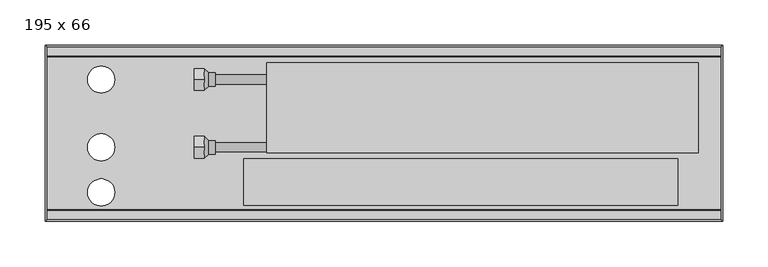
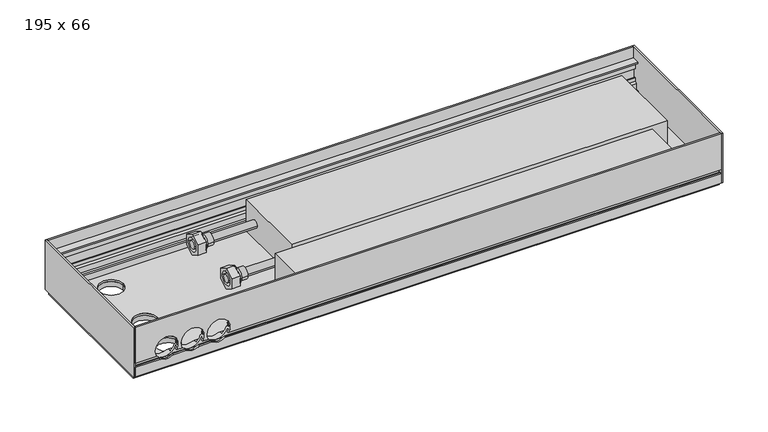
"""IFC4 building model written with IfcOpenShell, lengths in millimetres: proxy geometry, Mohlenhof_Внутрипольный конвектор_QSKM : 195 x 66."""

from ifc_helpers import new_model, si_unit, point, frame, frame_2d, origin, place, context, project, spatial, polyline, circle_curve, ellipse_curve, trimmed, segment, composite_curve, outline, extrude, source, transform, mapped, element, save
from ifc_brep_helpers import plane_surface, cylinder_surface, revolved_surface, advanced_brep


def proxy_195_x_66_cb3d574a(model_context):
    return source(origin(), model_context, "Body", "SolidModel", [
        advanced_brep(
        [(-199.0, -213.0, -41.0), (-199.0, -201.0, -41.0), (-199.0, -225.0, -41.0), (-186.5, -220.5, -41.0), (-186.5, -205.5, -41.0), (-186.5, -213.0, -41.0), (-194.0, -220.5, -41.0), (-194.0, -205.5, -41.0)],
        [
            (0, 1),
            (1, 2, circle_curve(frame((-199.0, -213.0, -41.0), z_axis=(-1.0, 0.0, 0.0), x_axis=(0.0, 1.0, 0.0)), 12.0)),
            (2, 0),
            (2, 1, circle_curve(frame((-199.0, -213.0, -41.0), z_axis=(-1.0, 0.0, 0.0), x_axis=(0.0, 1.0, 0.0)), 12.0)),
            (3, 4, circle_curve(frame((-186.5, -213.0, -41.0), z_axis=(1.0, 0.0, 0.0), x_axis=(0.0, 1.0, 0.0)), 7.5)),
            (4, 5),
            (5, 3),
            (4, 3, circle_curve(frame((-186.5, -213.0, -41.0), z_axis=(1.0, 0.0, 0.0), x_axis=(0.0, 1.0, 0.0)), 7.5)),
            (6, 7, circle_curve(frame((-194.0, -213.0, -41.0), z_axis=(1.0, 0.0, 0.0), x_axis=(0.0, 1.0, 0.0)), 7.5)),
            (7, 4),
            (3, 6),
            (7, 6, circle_curve(frame((-194.0, -213.0, -41.0), z_axis=(1.0, 0.0, 0.0), x_axis=(0.0, 1.0, 0.0)), 7.5)),
            (1, 7),
            (6, 2),
        ],
        [
            plane_surface(frame((-199.0, -213.0, -41.0), z_axis=(-1.0, 0.0, 0.0), x_axis=(0.0, 1.0, 0.0))),
            plane_surface(frame((-186.5, -213.0, -41.0), z_axis=(1.0, 0.0, 0.0), x_axis=(0.0, 1.0, 0.0))),
            cylinder_surface(frame((-199.0, -213.0, -41.0), z_axis=(-1.0, 0.0, 0.0), x_axis=(0.0, 1.0, 0.0)), 7.5),
            revolved_surface(polyline([(-194.0, -205.5, -41.0), (-199.0, -201.0, -41.0)]), (-199.0, -213.0, -41.0), (-1.0, 0.0, 0.0)),
        ],
        [
            (0, [[1, 2, 3]]),
            (0, [[-3, 4, -1]]),
            (1, [[5, 6, 7]]),
            (1, [[8, -7, -6]]),
            (2, [[9, 10, -5, 11]]),
            (2, [[12, -11, -8, -10]]),
            (3, [[-2, 13, -9, 14]]),
            (3, [[-4, -14, -12, -13]]),
        ],
    ),
        extrude(outline(polyline([(-213.0, -27.1435935), (-201.0, -34.0717968), (-201.0, -47.9282032), (-213.0, -54.8564065), (-225.0, -47.9282032), (-225.0, -34.0717968), (-213.0, -27.1435935)]), holes=[composite_curve([segment(trimmed(circle_curve(frame_2d((-213.0, -41.0)), 8.5), [point((-204.5, -41.0))], [point((-221.5, -41.0))], True, "CARTESIAN"), True, "CONTINUOUS"), segment(trimmed(circle_curve(frame_2d((-213.0, -41.0)), 8.5), [point((-221.5, -41.0))], [point((-204.5, -41.0))], True, "CARTESIAN"), True, "CONTINUOUS")], self_intersect=False)]), frame((-210.0, 0.0, 0.0), z_axis=(1.0, 0.0, 0.0), x_axis=(0.0, 1.0, 0.0)), (0.0, 0.0, 1.0), 11.0),
        advanced_brep(
        [(-199.0, -138.0, -41.0), (-199.0, -126.0, -41.0), (-199.0, -150.0, -41.0), (-186.5, -145.5, -41.0), (-186.5, -130.5, -41.0), (-186.5, -138.0, -41.0), (-194.0, -145.5, -41.0), (-194.0, -130.5, -41.0)],
        [
            (0, 1),
            (1, 2, circle_curve(frame((-199.0, -138.0, -41.0), z_axis=(-1.0, 0.0, 0.0), x_axis=(0.0, 1.0, 0.0)), 12.0)),
            (2, 0),
            (2, 1, circle_curve(frame((-199.0, -138.0, -41.0), z_axis=(-1.0, 0.0, 0.0), x_axis=(0.0, 1.0, 0.0)), 12.0)),
            (3, 4, circle_curve(frame((-186.5, -138.0, -41.0), z_axis=(1.0, 0.0, 0.0), x_axis=(0.0, 1.0, 0.0)), 7.5)),
            (4, 5),
            (5, 3),
            (4, 3, circle_curve(frame((-186.5, -138.0, -41.0), z_axis=(1.0, 0.0, 0.0), x_axis=(0.0, 1.0, 0.0)), 7.5)),
            (6, 7, circle_curve(frame((-194.0, -138.0, -41.0), z_axis=(1.0, 0.0, 0.0), x_axis=(0.0, 1.0, 0.0)), 7.5)),
            (7, 4),
            (3, 6),
            (7, 6, circle_curve(frame((-194.0, -138.0, -41.0), z_axis=(1.0, 0.0, 0.0), x_axis=(0.0, 1.0, 0.0)), 7.5)),
            (1, 7),
            (6, 2),
        ],
        [
            plane_surface(frame((-199.0, -138.0, -41.0), z_axis=(-1.0, 0.0, 0.0), x_axis=(0.0, 1.0, 0.0))),
            plane_surface(frame((-186.5, -138.0, -41.0), z_axis=(1.0, 0.0, 0.0), x_axis=(0.0, 1.0, 0.0))),
            cylinder_surface(frame((-199.0, -138.0, -41.0), z_axis=(-1.0, 0.0, 0.0), x_axis=(0.0, 1.0, 0.0)), 7.5),
            revolved_surface(polyline([(-194.0, -130.5, -41.0), (-199.0, -126.0, -41.0)]), (-199.0, -138.0, -41.0), (-1.0, 0.0, 0.0)),
        ],
        [
            (0, [[1, 2, 3]]),
            (0, [[-3, 4, -1]]),
            (1, [[5, 6, 7]]),
            (1, [[8, -7, -6]]),
            (2, [[9, 10, -5, 11]]),
            (2, [[12, -11, -8, -10]]),
            (3, [[-2, 13, -9, 14]]),
            (3, [[-4, -14, -12, -13]]),
        ],
    ),
        extrude(outline(polyline([(-138.0, -27.1435935), (-126.0, -34.0717968), (-126.0, -47.9282032), (-138.0, -54.8564065), (-150.0, -47.9282032), (-150.0, -34.0717968), (-138.0, -27.1435935)]), holes=[composite_curve([segment(trimmed(circle_curve(frame_2d((-138.0, -41.0)), 8.5), [point((-129.5, -41.0))], [point((-146.5, -41.0))], True, "CARTESIAN"), True, "CONTINUOUS"), segment(trimmed(circle_curve(frame_2d((-138.0, -41.0)), 8.5), [point((-146.5, -41.0))], [point((-129.5, -41.0))], True, "CARTESIAN"), True, "CONTINUOUS")], self_intersect=False)]), frame((-210.0, 0.0, 0.0), z_axis=(1.0, 0.0, 0.0), x_axis=(0.0, 1.0, 0.0)), (0.0, 0.0, 1.0), 11.0),
        extrude(outline(composite_curve([segment(trimmed(circle_curve(frame_2d((-350.0, -273.5)), 4.5), [point((-354.5, -273.5))], [point((-345.5, -273.5))], False, "CARTESIAN"), True, "CONTINUOUS"), segment(trimmed(circle_curve(frame_2d((-350.0, -273.5)), 4.5), [point((-345.5, -273.5))], [point((-354.5, -273.5))], False, "CARTESIAN"), True, "CONTINUOUS")], self_intersect=False)), frame((0.0, 0.0, -79.0), z_axis=(0.0, 0.0, 1.0), x_axis=(1.0, 0.0, 0.0)), (0.0, 0.0, 1.0), 7.0),
        extrude(outline(composite_curve([segment(trimmed(circle_curve(frame_2d((-350.0, -273.5)), 4.0), [point((-354.0, -273.5))], [point((-346.0, -273.5))], False, "CARTESIAN"), True, "CONTINUOUS"), segment(trimmed(circle_curve(frame_2d((-350.0, -273.5)), 4.0), [point((-346.0, -273.5))], [point((-354.0, -273.5))], False, "CARTESIAN"), True, "CONTINUOUS")], self_intersect=False)), frame((0.0, 0.0, -72.0), z_axis=(0.0, 0.0, 1.0), x_axis=(1.0, 0.0, 0.0)), (0.0, 0.0, 1.0), 1.5),
        extrude(outline(composite_curve([segment(trimmed(circle_curve(frame_2d((-350.0, -121.5)), 4.5), [point((-354.5, -121.5))], [point((-345.5, -121.5))], False, "CARTESIAN"), True, "CONTINUOUS"), segment(trimmed(circle_curve(frame_2d((-350.0, -121.5)), 4.5), [point((-345.5, -121.5))], [point((-354.5, -121.5))], False, "CARTESIAN"), True, "CONTINUOUS")], self_intersect=False)), frame((0.0, 0.0, -79.0), z_axis=(0.0, 0.0, 1.0), x_axis=(1.0, 0.0, 0.0)), (0.0, 0.0, 1.0), 7.0),
        extrude(outline(composite_curve([segment(trimmed(circle_curve(frame_2d((-350.0, -121.5)), 4.0), [point((-354.0, -121.5))], [point((-346.0, -121.5))], False, "CARTESIAN"), True, "CONTINUOUS"), segment(trimmed(circle_curve(frame_2d((-350.0, -121.5)), 4.0), [point((-346.0, -121.5))], [point((-354.0, -121.5))], False, "CARTESIAN"), True, "CONTINUOUS")], self_intersect=False)), frame((0.0, 0.0, -72.0), z_axis=(0.0, 0.0, 1.0), x_axis=(1.0, 0.0, 0.0)), (0.0, 0.0, 1.0), 1.5),
        extrude(outline(composite_curve([segment(trimmed(circle_curve(frame_2d((350.0, -273.5)), 4.5), [point((345.5, -273.5))], [point((354.5, -273.5))], False, "CARTESIAN"), True, "CONTINUOUS"), segment(trimmed(circle_curve(frame_2d((350.0, -273.5)), 4.5), [point((354.5, -273.5))], [point((345.5, -273.5))], False, "CARTESIAN"), True, "CONTINUOUS")], self_intersect=False)), frame((0.0, 0.0, -79.0), z_axis=(0.0, 0.0, 1.0), x_axis=(1.0, 0.0, 0.0)), (0.0, 0.0, 1.0), 7.0),
        extrude(outline(composite_curve([segment(trimmed(circle_curve(frame_2d((350.0, -273.5)), 4.0), [point((346.0, -273.5))], [point((354.0, -273.5))], False, "CARTESIAN"), True, "CONTINUOUS"), segment(trimmed(circle_curve(frame_2d((350.0, -273.5)), 4.0), [point((354.0, -273.5))], [point((346.0, -273.5))], False, "CARTESIAN"), True, "CONTINUOUS")], self_intersect=False)), frame((0.0, 0.0, -72.0), z_axis=(0.0, 0.0, 1.0), x_axis=(1.0, 0.0, 0.0)), (0.0, 0.0, 1.0), 1.5),
        extrude(outline(composite_curve([segment(trimmed(circle_curve(frame_2d((350.0, -121.5)), 4.5), [point((345.5, -121.5))], [point((354.5, -121.5))], False, "CARTESIAN"), True, "CONTINUOUS"), segment(trimmed(circle_curve(frame_2d((350.0, -121.5)), 4.5), [point((354.5, -121.5))], [point((345.5, -121.5))], False, "CARTESIAN"), True, "CONTINUOUS")], self_intersect=False)), frame((0.0, 0.0, -79.0), z_axis=(0.0, 0.0, 1.0), x_axis=(1.0, 0.0, 0.0)), (0.0, 0.0, 1.0), 7.0),
        extrude(outline(composite_curve([segment(trimmed(circle_curve(frame_2d((350.0, -121.5)), 4.0), [point((346.0, -121.5))], [point((354.0, -121.5))], False, "CARTESIAN"), True, "CONTINUOUS"), segment(trimmed(circle_curve(frame_2d((350.0, -121.5)), 4.0), [point((354.0, -121.5))], [point((346.0, -121.5))], False, "CARTESIAN"), True, "CONTINUOUS")], self_intersect=False)), frame((0.0, 0.0, -72.0), z_axis=(0.0, 0.0, 1.0), x_axis=(1.0, 0.0, 0.0)), (0.0, 0.0, 1.0), 1.5),
        extrude(outline(polyline([(325.0, -225.87), (325.0, -277.18), (-155.0, -277.18), (-155.0, -225.87), (325.0, -225.87)])), frame((0.0, 0.0, -62.5), z_axis=(0.0, 0.0, 1.0), x_axis=(1.0, 0.0, 0.0)), (0.0, 0.0, 1.0), 43.62),
        extrude(outline(composite_curve([segment(trimmed(circle_curve(frame_2d((-213.0, -41.0)), 5.0), [point((-218.0, -41.0))], [point((-208.0, -41.0))], False, "CARTESIAN"), True, "CONTINUOUS"), segment(trimmed(circle_curve(frame_2d((-213.0, -41.0)), 5.0), [point((-208.0, -41.0))], [point((-218.0, -41.0))], False, "CARTESIAN"), True, "CONTINUOUS")], self_intersect=False)), frame((-210.0, 0.0, 0.0), z_axis=(1.0, 0.0, 0.0), x_axis=(0.0, 1.0, 0.0)), (0.0, 0.0, 1.0), 80.0),
        extrude(outline(composite_curve([segment(trimmed(circle_curve(frame_2d((-138.0, -41.0)), 5.0), [point((-143.0, -41.0))], [point((-133.0, -41.0))], False, "CARTESIAN"), True, "CONTINUOUS"), segment(trimmed(circle_curve(frame_2d((-138.0, -41.0)), 5.0), [point((-133.0, -41.0))], [point((-143.0, -41.0))], False, "CARTESIAN"), True, "CONTINUOUS")], self_intersect=False)), frame((-210.0, 0.0, 0.0), z_axis=(1.0, 0.0, 0.0), x_axis=(0.0, 1.0, 0.0)), (0.0, 0.0, 1.0), 80.0),
        advanced_brep(
        [(373.0, -295.0, -48.5473602), (373.0, -293.5, -49.2468216), (373.0, -292.5, -49.2468216), (373.0, -292.5, -46.0008038), (373.0, -290.0, -46.0008038), (373.0, -290.0, -56.5008038), (373.0, -292.5, -56.5008038), (373.0, -292.5, -53.2468216), (373.0, -293.5, -53.2468216), (373.0, -295.0, -53.9462831), (373.0, -295.0, -66.5), (373.0, -291.0, -66.5), (373.0, -291.0, -65.2), (373.0, -293.0, -65.2), (373.0, -293.0, -62.5), (373.0, -282.0, -62.5), (373.0, -282.0, -54.9172677), (373.0, -283.4172677, -53.5), (373.0, -287.0, -53.5), (373.0, -287.0, -45.91), (373.0, -289.0, -43.91), (373.0, -289.0, -39.5), (373.0, -290.0, -39.5), (373.0, -290.0, -43.5), (373.0, -292.4956439, -43.5), (373.0, -292.4956439, -23.0), (373.0, -290.0, -23.0), (373.0, -290.0, -27.0), (373.0, -289.0, -27.0), (373.0, -289.0, -17.0), (373.0, -283.3956439, -17.0), (373.0, -283.3956439, -15.0), (373.0, -293.4, -15.0), (373.0, -293.4, 0.0), (373.0, -295.0, 0.0), (-373.0, -295.0, -48.5473602), (-373.0, -295.0, 0.0), (-373.0, -293.4, 0.0), (-373.0, -293.4, -15.0), (-373.0, -283.3956439, -15.0), (-373.0, -283.3956439, -17.0), (-373.0, -289.0, -17.0), (-373.0, -289.0, -27.0), (-373.0, -290.0, -27.0), (-373.0, -290.0, -23.0), (-373.0, -292.4956439, -23.0), (-373.0, -292.4956439, -43.5), (-373.0, -290.0, -43.5), (-373.0, -290.0, -39.5), (-373.0, -289.0, -39.5), (-373.0, -289.0, -43.91), (-373.0, -287.0, -45.91), (-373.0, -287.0, -53.5), (-373.0, -283.4172677, -53.5), (-373.0, -282.0, -54.9172677), (-373.0, -282.0, -62.5), (-373.0, -293.0, -62.5), (-373.0, -293.0, -65.2), (-373.0, -291.0, -65.2), (-373.0, -291.0, -66.5), (-373.0, -295.0, -66.5), (-373.0, -295.0, -53.9462831), (-373.0, -293.5, -53.2468216), (-373.0, -292.5, -53.2468216), (-373.0, -292.5, -56.5008038), (-373.0, -290.0, -56.5008038), (-373.0, -290.0, -46.0008038), (-373.0, -292.5, -46.0008038), (-373.0, -292.5, -49.2468216), (-373.0, -293.5, -49.2468216), (-253.7585985, -295.0, -48.5473602), (-254.155283, -293.5, -49.2468216), (-345.844717, -293.5, -49.2468216), (-346.2414015, -295.0, -48.5473602), (-313.2414015, -295.0, -48.5473602), (-319.7585985, -295.0, -48.5473602), (-320.155283, -293.5, -49.2468216), (-312.844717, -293.5, -49.2468216), (-280.2414015, -295.0, -48.5473602), (-286.7585985, -295.0, -48.5473602), (-287.155283, -293.5, -49.2468216), (-279.844717, -293.5, -49.2468216), (-254.155283, -292.5, -49.2468216), (-345.844717, -292.5, -49.2468216), (-320.155283, -292.5, -49.2468216), (-312.844717, -292.5, -49.2468216), (-287.155283, -292.5, -49.2468216), (-279.844717, -292.5, -49.2468216), (-252.6911648, -292.5, -46.0008038), (-347.3088352, -292.5, -46.0008038), (-318.6911648, -292.5, -46.0008038), (-314.3088352, -292.5, -46.0008038), (-285.6911648, -292.5, -46.0008038), (-281.3088352, -292.5, -46.0008038), (-252.6911648, -290.0, -46.0008038), (-347.3088352, -290.0, -46.0008038), (-318.6911648, -290.0, -46.0008038), (-314.3088352, -290.0, -46.0008038), (-285.6911648, -290.0, -46.0008038), (-281.3088352, -290.0, -46.0008038), (-342.328032, -292.5, -53.2468216), (-323.671968, -292.5, -53.2468216), (-309.328032, -292.5, -53.2468216), (-290.671968, -292.5, -53.2468216), (-276.328032, -292.5, -53.2468216), (-257.671968, -292.5, -53.2468216), (-257.671968, -293.5, -53.2468216), (-342.328032, -293.5, -53.2468216), (-323.671968, -293.5, -53.2468216), (-309.328032, -293.5, -53.2468216), (-290.671968, -293.5, -53.2468216), (-276.328032, -293.5, -53.2468216), (-258.6280208, -295.0, -53.9462831), (-341.3719792, -295.0, -53.9462831), (-324.6280208, -295.0, -53.9462831), (-308.3719792, -295.0, -53.9462831), (-291.6280208, -295.0, -53.9462831), (-275.3719792, -295.0, -53.9462831), (-339.7064841, -282.0, -54.9172677), (-326.2935159, -282.0, -54.9172677), (-306.7064841, -282.0, -54.9172677), (-293.2935159, -282.0, -54.9172677), (-273.7064841, -282.0, -54.9172677), (-260.2935159, -282.0, -54.9172677), (-258.0, -283.4172677, -53.5), (-342.0, -283.4172677, -53.5), (-324.0, -283.4172677, -53.5), (-309.0, -283.4172677, -53.5), (-291.0, -283.4172677, -53.5), (-276.0, -283.4172677, -53.5), (-258.0, -287.0, -53.5), (-342.0, -287.0, -53.5), (-324.0, -287.0, -53.5), (-309.0, -287.0, -53.5), (-291.0, -287.0, -53.5), (-276.0, -287.0, -53.5), (-252.6629187, -287.0, -45.91), (-347.3370813, -287.0, -45.91), (-318.6629187, -287.0, -45.91), (-314.3370813, -287.0, -45.91), (-285.6629187, -287.0, -45.91), (-281.3370813, -287.0, -45.91), (-252.1948691, -289.0, -43.91), (-347.8051309, -289.0, -43.91), (-318.1948691, -289.0, -43.91), (-314.8051309, -289.0, -43.91), (-285.1948691, -289.0, -43.91), (-281.8051309, -289.0, -43.91), (-252.0, -289.0, -41.5), (-252.1339313, -289.0, -39.5), (-347.8660687, -289.0, -39.5), (-348.0, -289.0, -41.5), (-318.0, -289.0, -41.5), (-318.1339313, -289.0, -39.5), (-314.8660687, -289.0, -39.5), (-315.0, -289.0, -41.5), (-285.0, -289.0, -41.5), (-285.1339313, -289.0, -39.5), (-281.8660687, -289.0, -39.5), (-282.0, -289.0, -41.5), (-252.1339313, -290.0, -39.5), (-347.8660687, -290.0, -39.5), (-318.1339313, -290.0, -39.5), (-314.8660687, -290.0, -39.5), (-285.1339313, -290.0, -39.5), (-281.8660687, -290.0, -39.5), (-252.0, -290.0, -41.5), (-252.1339313, -290.0, -43.5), (-347.8660687, -290.0, -43.5), (-348.0, -290.0, -41.5), (-318.0, -290.0, -41.5), (-318.1339313, -290.0, -43.5), (-314.8660687, -290.0, -43.5), (-315.0, -290.0, -41.5), (-285.0, -290.0, -41.5), (-285.1339313, -290.0, -43.5), (-281.8660687, -290.0, -43.5), (-282.0, -290.0, -41.5), (-252.1339313, -292.4956439, -43.5), (-347.8660687, -292.4956439, -43.5), (-318.1339313, -292.4956439, -43.5), (-314.8660687, -292.4956439, -43.5), (-285.1339313, -292.4956439, -43.5), (-281.8660687, -292.4956439, -43.5), (-252.0, -292.4956439, -41.5), (-282.0, -292.4956439, -41.5), (-285.0, -292.4956439, -41.5), (-315.0, -292.4956439, -41.5), (-318.0, -292.4956439, -41.5), (-348.0, -292.4956439, -41.5), (-336.8405729, -290.0, -27.0), (-329.1594271, -290.0, -27.0), (-303.8405729, -290.0, -27.0), (-296.1594271, -290.0, -27.0), (-270.8405729, -290.0, -27.0), (-263.1594271, -290.0, -27.0), (-263.1594271, -289.0, -27.0), (-336.8405729, -289.0, -27.0), (-329.1594271, -289.0, -27.0), (-303.8405729, -289.0, -27.0), (-296.1594271, -289.0, -27.0), (-270.8405729, -289.0, -27.0), (-348.0, -295.0, -41.5), (-318.0, -295.0, -41.5), (-315.0, -295.0, -41.5), (-285.0, -295.0, -41.5), (-282.0, -295.0, -41.5), (-252.0, -295.0, -41.5)],
        [
            (0, 1),
            (1, 2),
            (2, 3),
            (3, 4),
            (4, 5),
            (5, 6),
            (6, 7),
            (7, 8),
            (8, 9),
            (9, 10),
            (10, 11),
            (11, 12),
            (12, 13),
            (13, 14),
            (14, 15),
            (15, 16),
            (16, 17),
            (17, 18),
            (18, 19),
            (19, 20),
            (20, 21),
            (21, 22),
            (22, 23),
            (23, 24),
            (24, 25),
            (25, 26),
            (26, 27),
            (27, 28),
            (28, 29),
            (29, 30),
            (30, 31),
            (31, 32),
            (32, 33),
            (33, 34),
            (34, 0),
            (35, 36),
            (36, 37),
            (37, 38),
            (38, 39),
            (39, 40),
            (40, 41),
            (41, 42),
            (42, 43),
            (43, 44),
            (44, 45),
            (45, 46),
            (46, 47),
            (47, 48),
            (48, 49),
            (49, 50),
            (50, 51),
            (51, 52),
            (52, 53),
            (53, 54),
            (54, 55),
            (55, 56),
            (56, 57),
            (57, 58),
            (58, 59),
            (59, 60),
            (60, 61),
            (61, 62),
            (62, 63),
            (63, 64),
            (64, 65),
            (65, 66),
            (66, 67),
            (67, 68),
            (68, 69),
            (69, 35),
            (0, 70),
            (70, 71, ellipse_curve(frame((-267.0, -310.1131126, -41.5), z_axis=(0.0, 0.42261826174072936, 0.9063077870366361), x_axis=(0.0, -0.906307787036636, 0.4226182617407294)), 35.4930237, 15.0)),
            (71, 1),
            (69, 72),
            (72, 73, ellipse_curve(frame((-333.0, -310.1131126, -41.5), z_axis=(0.0, 0.42261826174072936, 0.9063077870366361), x_axis=(0.0, -0.906307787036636, 0.4226182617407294)), 35.4930237, 15.0)),
            (73, 35),
            (74, 75),
            (75, 76, ellipse_curve(frame((-333.0, -310.1131126, -41.5), z_axis=(0.0, 0.42261826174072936, 0.9063077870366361), x_axis=(0.0, -0.906307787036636, 0.4226182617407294)), 35.4930237, 15.0)),
            (76, 77),
            (77, 74, ellipse_curve(frame((-300.0, -310.1131126, -41.5), z_axis=(0.0, 0.42261826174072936, 0.9063077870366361), x_axis=(0.0, -0.906307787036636, 0.4226182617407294)), 35.4930237, 15.0)),
            (78, 79),
            (79, 80, ellipse_curve(frame((-300.0, -310.1131126, -41.5), z_axis=(0.0, 0.42261826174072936, 0.9063077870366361), x_axis=(0.0, -0.906307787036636, 0.4226182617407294)), 35.4930237, 15.0)),
            (80, 81),
            (81, 78, ellipse_curve(frame((-267.0, -310.1131126, -41.5), z_axis=(0.0, 0.42261826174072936, 0.9063077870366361), x_axis=(0.0, -0.906307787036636, 0.4226182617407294)), 35.4930237, 15.0)),
            (71, 82),
            (82, 2),
            (68, 83),
            (83, 72),
            (76, 84),
            (84, 85),
            (85, 77),
            (80, 86),
            (86, 87),
            (87, 81),
            (82, 88, circle_curve(frame((-267.0, -292.5, -41.5), z_axis=(0.0, -1.0, 0.0), x_axis=(1.0, 0.0, 0.0)), 15.0)),
            (88, 3),
            (67, 89),
            (89, 83, circle_curve(frame((-333.0, -292.5, -41.5), z_axis=(0.0, -1.0, 0.0), x_axis=(1.0, 0.0, 0.0)), 15.0)),
            (84, 90, circle_curve(frame((-333.0, -292.5, -41.5), z_axis=(0.0, -1.0, 0.0), x_axis=(1.0, 0.0, 0.0)), 15.0)),
            (90, 91),
            (91, 85, circle_curve(frame((-300.0, -292.5, -41.5), z_axis=(0.0, -1.0, 0.0), x_axis=(1.0, 0.0, 0.0)), 15.0)),
            (86, 92, circle_curve(frame((-300.0, -292.5, -41.5), z_axis=(0.0, -1.0, 0.0), x_axis=(1.0, 0.0, 0.0)), 15.0)),
            (92, 93),
            (93, 87, circle_curve(frame((-267.0, -292.5, -41.5), z_axis=(0.0, -1.0, 0.0), x_axis=(1.0, 0.0, 0.0)), 15.0)),
            (88, 94),
            (94, 4),
            (66, 95),
            (95, 89),
            (90, 96),
            (96, 97),
            (97, 91),
            (92, 98),
            (98, 99),
            (99, 93),
            (94, 99, circle_curve(frame((-267.0, -290.0, -41.5), z_axis=(0.0, 1.0, 0.0), x_axis=(1.0, 0.0, 0.0)), 15.0)),
            (98, 97, circle_curve(frame((-300.0, -290.0, -41.5), z_axis=(0.0, 1.0, 0.0), x_axis=(1.0, 0.0, 0.0)), 15.0)),
            (96, 95, circle_curve(frame((-333.0, -290.0, -41.5), z_axis=(0.0, 1.0, 0.0), x_axis=(1.0, 0.0, 0.0)), 15.0)),
            (65, 5),
            (64, 6),
            (63, 100),
            (100, 101, circle_curve(frame((-333.0, -292.5, -41.5), z_axis=(0.0, -1.0, 0.0), x_axis=(1.0, 0.0, 0.0)), 15.0)),
            (101, 102),
            (102, 103, circle_curve(frame((-300.0, -292.5, -41.5), z_axis=(0.0, -1.0, 0.0), x_axis=(1.0, 0.0, 0.0)), 15.0)),
            (103, 104),
            (104, 105, circle_curve(frame((-267.0, -292.5, -41.5), z_axis=(0.0, -1.0, 0.0), x_axis=(1.0, 0.0, 0.0)), 15.0)),
            (105, 7),
            (105, 106),
            (106, 8),
            (62, 107),
            (107, 100),
            (101, 108),
            (108, 109),
            (109, 102),
            (103, 110),
            (110, 111),
            (111, 104),
            (106, 112, ellipse_curve(frame((-267.0, -268.3088597, -41.5), z_axis=(0.0, 0.4226182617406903, -0.9063077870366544), x_axis=(0.0, -0.9063077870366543, -0.42261826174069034)), 35.4930237, 15.0)),
            (112, 9),
            (61, 113),
            (113, 107, ellipse_curve(frame((-333.0, -268.3088597, -41.5), z_axis=(0.0, 0.4226182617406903, -0.9063077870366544), x_axis=(0.0, -0.9063077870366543, -0.42261826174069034)), 35.4930237, 15.0)),
            (108, 114, ellipse_curve(frame((-333.0, -268.3088597, -41.5), z_axis=(0.0, 0.4226182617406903, -0.9063077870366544), x_axis=(0.0, -0.9063077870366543, -0.42261826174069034)), 35.4930237, 15.0)),
            (114, 115),
            (115, 109, ellipse_curve(frame((-300.0, -268.3088597, -41.5), z_axis=(0.0, 0.4226182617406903, -0.9063077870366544), x_axis=(0.0, -0.9063077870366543, -0.42261826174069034)), 35.4930237, 15.0)),
            (110, 116, ellipse_curve(frame((-300.0, -268.3088597, -41.5), z_axis=(0.0, 0.4226182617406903, -0.9063077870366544), x_axis=(0.0, -0.9063077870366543, -0.42261826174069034)), 35.4930237, 15.0)),
            (116, 117),
            (117, 111, ellipse_curve(frame((-267.0, -268.3088597, -41.5), z_axis=(0.0, 0.4226182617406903, -0.9063077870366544), x_axis=(0.0, -0.9063077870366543, -0.42261826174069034)), 35.4930237, 15.0)),
            (112, 117, circle_curve(frame((-267.0, -295.0, -41.5), z_axis=(0.0, 1.0, 0.0), x_axis=(1.0, 0.0, 0.0)), 15.0)),
            (116, 115, circle_curve(frame((-300.0, -295.0, -41.5), z_axis=(0.0, 1.0, 0.0), x_axis=(1.0, 0.0, 0.0)), 15.0)),
            (114, 113, circle_curve(frame((-333.0, -295.0, -41.5), z_axis=(0.0, 1.0, 0.0), x_axis=(1.0, 0.0, 0.0)), 15.0)),
            (60, 10),
            (59, 11),
            (58, 12),
            (57, 13),
            (56, 14),
            (55, 15),
            (54, 118),
            (118, 119, circle_curve(frame((-333.0, -282.0, -41.5), z_axis=(0.0, -1.0, 0.0), x_axis=(1.0, 0.0, 0.0)), 15.0)),
            (119, 120),
            (120, 121, circle_curve(frame((-300.0, -282.0, -41.5), z_axis=(0.0, -1.0, 0.0), x_axis=(1.0, 0.0, 0.0)), 15.0)),
            (121, 122),
            (122, 123, circle_curve(frame((-267.0, -282.0, -41.5), z_axis=(0.0, -1.0, 0.0), x_axis=(1.0, 0.0, 0.0)), 15.0)),
            (123, 16),
            (123, 124, ellipse_curve(frame((-267.0, -295.4172677, -41.5), z_axis=(0.0, -0.7071067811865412, -0.7071067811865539), x_axis=(0.0, -0.7071067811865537, 0.7071067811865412)), 21.2132034, 15.0)),
            (124, 17),
            (53, 125),
            (125, 118, ellipse_curve(frame((-333.0, -295.4172677, -41.5), z_axis=(0.0, -0.7071067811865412, -0.7071067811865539), x_axis=(0.0, -0.7071067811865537, 0.7071067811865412)), 21.2132034, 15.0)),
            (119, 126, ellipse_curve(frame((-333.0, -295.4172677, -41.5), z_axis=(0.0, -0.7071067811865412, -0.7071067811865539), x_axis=(0.0, -0.7071067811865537, 0.7071067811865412)), 21.2132034, 15.0)),
            (126, 127),
            (127, 120, ellipse_curve(frame((-300.0, -295.4172677, -41.5), z_axis=(0.0, -0.7071067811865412, -0.7071067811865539), x_axis=(0.0, -0.7071067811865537, 0.7071067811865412)), 21.2132034, 15.0)),
            (121, 128, ellipse_curve(frame((-300.0, -295.4172677, -41.5), z_axis=(0.0, -0.7071067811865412, -0.7071067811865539), x_axis=(0.0, -0.7071067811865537, 0.7071067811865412)), 21.2132034, 15.0)),
            (128, 129),
            (129, 122, ellipse_curve(frame((-267.0, -295.4172677, -41.5), z_axis=(0.0, -0.7071067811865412, -0.7071067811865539), x_axis=(0.0, -0.7071067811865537, 0.7071067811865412)), 21.2132034, 15.0)),
            (124, 130),
            (130, 18),
            (52, 131),
            (131, 125),
            (126, 132),
            (132, 133),
            (133, 127),
            (128, 134),
            (134, 135),
            (135, 129),
            (130, 136, circle_curve(frame((-267.0, -287.0, -41.5), z_axis=(0.0, -1.0, 0.0), x_axis=(1.0, 0.0, 0.0)), 15.0)),
            (136, 19),
            (51, 137),
            (137, 131, circle_curve(frame((-333.0, -287.0, -41.5), z_axis=(0.0, -1.0, 0.0), x_axis=(1.0, 0.0, 0.0)), 15.0)),
            (132, 138, circle_curve(frame((-333.0, -287.0, -41.5), z_axis=(0.0, -1.0, 0.0), x_axis=(1.0, 0.0, 0.0)), 15.0)),
            (138, 139),
            (139, 133, circle_curve(frame((-300.0, -287.0, -41.5), z_axis=(0.0, -1.0, 0.0), x_axis=(1.0, 0.0, 0.0)), 15.0)),
            (134, 140, circle_curve(frame((-300.0, -287.0, -41.5), z_axis=(0.0, -1.0, 0.0), x_axis=(1.0, 0.0, 0.0)), 15.0)),
            (140, 141),
            (141, 135, circle_curve(frame((-267.0, -287.0, -41.5), z_axis=(0.0, -1.0, 0.0), x_axis=(1.0, 0.0, 0.0)), 15.0)),
            (136, 142, ellipse_curve(frame((-267.0, -291.41, -41.5), z_axis=(0.0, -0.7071067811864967, -0.7071067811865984), x_axis=(0.0, -0.7071067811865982, 0.7071067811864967)), 21.2132034, 15.0)),
            (142, 20),
            (50, 143),
            (143, 137, ellipse_curve(frame((-333.0, -291.41, -41.5), z_axis=(0.0, -0.7071067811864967, -0.7071067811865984), x_axis=(0.0, -0.7071067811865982, 0.7071067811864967)), 21.2132034, 15.0)),
            (138, 144, ellipse_curve(frame((-333.0, -291.41, -41.5), z_axis=(0.0, -0.7071067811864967, -0.7071067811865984), x_axis=(0.0, -0.7071067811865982, 0.7071067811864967)), 21.2132034, 15.0)),
            (144, 145),
            (145, 139, ellipse_curve(frame((-300.0, -291.41, -41.5), z_axis=(0.0, -0.7071067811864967, -0.7071067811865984), x_axis=(0.0, -0.7071067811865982, 0.7071067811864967)), 21.2132034, 15.0)),
            (140, 146, ellipse_curve(frame((-300.0, -291.41, -41.5), z_axis=(0.0, -0.7071067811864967, -0.7071067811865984), x_axis=(0.0, -0.7071067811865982, 0.7071067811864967)), 21.2132034, 15.0)),
            (146, 147),
            (147, 141, ellipse_curve(frame((-267.0, -291.41, -41.5), z_axis=(0.0, -0.7071067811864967, -0.7071067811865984), x_axis=(0.0, -0.7071067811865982, 0.7071067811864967)), 21.2132034, 15.0)),
            (142, 148, circle_curve(frame((-267.0, -289.0, -41.5), z_axis=(0.0, -1.0, 0.0), x_axis=(1.0, 0.0, 0.0)), 15.0)),
            (148, 149, circle_curve(frame((-267.0, -289.0, -41.5), z_axis=(0.0, -1.0, 0.0), x_axis=(1.0, 0.0, 0.0)), 15.0)),
            (149, 21),
            (49, 150),
            (150, 151, circle_curve(frame((-333.0, -289.0, -41.5), z_axis=(0.0, -1.0, 0.0), x_axis=(1.0, 0.0, 0.0)), 15.0)),
            (151, 143, circle_curve(frame((-333.0, -289.0, -41.5), z_axis=(0.0, -1.0, 0.0), x_axis=(1.0, 0.0, 0.0)), 15.0)),
            (144, 152, circle_curve(frame((-333.0, -289.0, -41.5), z_axis=(0.0, -1.0, 0.0), x_axis=(1.0, 0.0, 0.0)), 15.0)),
            (152, 153, circle_curve(frame((-333.0, -289.0, -41.5), z_axis=(0.0, -1.0, 0.0), x_axis=(1.0, 0.0, 0.0)), 15.0)),
            (153, 154),
            (154, 155, circle_curve(frame((-300.0, -289.0, -41.5), z_axis=(0.0, -1.0, 0.0), x_axis=(1.0, 0.0, 0.0)), 15.0)),
            (155, 145, circle_curve(frame((-300.0, -289.0, -41.5), z_axis=(0.0, -1.0, 0.0), x_axis=(1.0, 0.0, 0.0)), 15.0)),
            (146, 156, circle_curve(frame((-300.0, -289.0, -41.5), z_axis=(0.0, -1.0, 0.0), x_axis=(1.0, 0.0, 0.0)), 15.0)),
            (156, 157, circle_curve(frame((-300.0, -289.0, -41.5), z_axis=(0.0, -1.0, 0.0), x_axis=(1.0, 0.0, 0.0)), 15.0)),
            (157, 158),
            (158, 159, circle_curve(frame((-267.0, -289.0, -41.5), z_axis=(0.0, -1.0, 0.0), x_axis=(1.0, 0.0, 0.0)), 15.0)),
            (159, 147, circle_curve(frame((-267.0, -289.0, -41.5), z_axis=(0.0, -1.0, 0.0), x_axis=(1.0, 0.0, 0.0)), 15.0)),
            (149, 160),
            (160, 22),
            (48, 161),
            (161, 150),
            (153, 162),
            (162, 163),
            (163, 154),
            (157, 164),
            (164, 165),
            (165, 158),
            (160, 166, circle_curve(frame((-267.0, -290.0, -41.5), z_axis=(0.0, 1.0, 0.0), x_axis=(1.0, 0.0, 0.0)), 15.0)),
            (166, 167, circle_curve(frame((-267.0, -290.0, -41.5), z_axis=(0.0, 1.0, 0.0), x_axis=(1.0, 0.0, 0.0)), 15.0)),
            (167, 23),
            (47, 168),
            (168, 169, circle_curve(frame((-333.0, -290.0, -41.5), z_axis=(0.0, 1.0, 0.0), x_axis=(1.0, 0.0, 0.0)), 15.0)),
            (169, 161, circle_curve(frame((-333.0, -290.0, -41.5), z_axis=(0.0, 1.0, 0.0), x_axis=(1.0, 0.0, 0.0)), 15.0)),
            (162, 170, circle_curve(frame((-333.0, -290.0, -41.5), z_axis=(0.0, 1.0, 0.0), x_axis=(1.0, 0.0, 0.0)), 15.0)),
            (170, 171, circle_curve(frame((-333.0, -290.0, -41.5), z_axis=(0.0, 1.0, 0.0), x_axis=(1.0, 0.0, 0.0)), 15.0)),
            (171, 172),
            (172, 173, circle_curve(frame((-300.0, -290.0, -41.5), z_axis=(0.0, 1.0, 0.0), x_axis=(1.0, 0.0, 0.0)), 15.0)),
            (173, 163, circle_curve(frame((-300.0, -290.0, -41.5), z_axis=(0.0, 1.0, 0.0), x_axis=(1.0, 0.0, 0.0)), 15.0)),
            (164, 174, circle_curve(frame((-300.0, -290.0, -41.5), z_axis=(0.0, 1.0, 0.0), x_axis=(1.0, 0.0, 0.0)), 15.0)),
            (174, 175, circle_curve(frame((-300.0, -290.0, -41.5), z_axis=(0.0, 1.0, 0.0), x_axis=(1.0, 0.0, 0.0)), 15.0)),
            (175, 176),
            (176, 177, circle_curve(frame((-267.0, -290.0, -41.5), z_axis=(0.0, 1.0, 0.0), x_axis=(1.0, 0.0, 0.0)), 15.0)),
            (177, 165, circle_curve(frame((-267.0, -290.0, -41.5), z_axis=(0.0, 1.0, 0.0), x_axis=(1.0, 0.0, 0.0)), 15.0)),
            (167, 178),
            (178, 24),
            (46, 179),
            (179, 168),
            (171, 180),
            (180, 181),
            (181, 172),
            (175, 182),
            (182, 183),
            (183, 176),
            (178, 184, circle_curve(frame((-267.0, -292.4956439, -41.5), z_axis=(0.0, -1.0, 0.0), x_axis=(1.0, 0.0, 0.0)), 15.0)),
            (184, 185, circle_curve(frame((-267.0, -292.4956439, -41.5), z_axis=(0.0, -1.0, 0.0), x_axis=(1.0, 0.0, 0.0)), 15.0)),
            (185, 183, circle_curve(frame((-267.0, -292.4956439, -41.5), z_axis=(0.0, -1.0, 0.0), x_axis=(1.0, 0.0, 0.0)), 15.0)),
            (182, 186, circle_curve(frame((-300.0, -292.4956439, -41.5), z_axis=(0.0, -1.0, 0.0), x_axis=(1.0, 0.0, 0.0)), 15.0)),
            (186, 187, circle_curve(frame((-300.0, -292.4956439, -41.5), z_axis=(0.0, -1.0, 0.0), x_axis=(1.0, 0.0, 0.0)), 15.0)),
            (187, 181, circle_curve(frame((-300.0, -292.4956439, -41.5), z_axis=(0.0, -1.0, 0.0), x_axis=(1.0, 0.0, 0.0)), 15.0)),
            (180, 188, circle_curve(frame((-333.0, -292.4956439, -41.5), z_axis=(0.0, -1.0, 0.0), x_axis=(1.0, 0.0, 0.0)), 15.0)),
            (188, 189, circle_curve(frame((-333.0, -292.4956439, -41.5), z_axis=(0.0, -1.0, 0.0), x_axis=(1.0, 0.0, 0.0)), 15.0)),
            (189, 179, circle_curve(frame((-333.0, -292.4956439, -41.5), z_axis=(0.0, -1.0, 0.0), x_axis=(1.0, 0.0, 0.0)), 15.0)),
            (45, 25),
            (44, 26),
            (43, 190),
            (190, 191, circle_curve(frame((-333.0, -290.0, -41.5), z_axis=(0.0, 1.0, 0.0), x_axis=(1.0, 0.0, 0.0)), 15.0)),
            (191, 192),
            (192, 193, circle_curve(frame((-300.0, -290.0, -41.5), z_axis=(0.0, 1.0, 0.0), x_axis=(1.0, 0.0, 0.0)), 15.0)),
            (193, 194),
            (194, 195, circle_curve(frame((-267.0, -290.0, -41.5), z_axis=(0.0, 1.0, 0.0), x_axis=(1.0, 0.0, 0.0)), 15.0)),
            (195, 27),
            (195, 196),
            (196, 28),
            (42, 197),
            (197, 190),
            (191, 198),
            (198, 199),
            (199, 192),
            (193, 200),
            (200, 201),
            (201, 194),
            (196, 201, circle_curve(frame((-267.0, -289.0, -41.5), z_axis=(0.0, -1.0, 0.0), x_axis=(1.0, 0.0, 0.0)), 15.0)),
            (200, 199, circle_curve(frame((-300.0, -289.0, -41.5), z_axis=(0.0, -1.0, 0.0), x_axis=(1.0, 0.0, 0.0)), 15.0)),
            (198, 197, circle_curve(frame((-333.0, -289.0, -41.5), z_axis=(0.0, -1.0, 0.0), x_axis=(1.0, 0.0, 0.0)), 15.0)),
            (41, 29),
            (40, 30),
            (39, 31),
            (38, 32),
            (37, 33),
            (36, 34),
            (73, 202, circle_curve(frame((-333.0, -295.0, -41.5), z_axis=(0.0, 1.0, 0.0), x_axis=(1.0, 0.0, 0.0)), 15.0)),
            (202, 203, circle_curve(frame((-333.0, -295.0, -41.5), z_axis=(0.0, 1.0, 0.0), x_axis=(1.0, 0.0, 0.0)), 15.0)),
            (203, 75, circle_curve(frame((-333.0, -295.0, -41.5), z_axis=(0.0, 1.0, 0.0), x_axis=(1.0, 0.0, 0.0)), 15.0)),
            (74, 204, circle_curve(frame((-300.0, -295.0, -41.5), z_axis=(0.0, 1.0, 0.0), x_axis=(1.0, 0.0, 0.0)), 15.0)),
            (204, 205, circle_curve(frame((-300.0, -295.0, -41.5), z_axis=(0.0, 1.0, 0.0), x_axis=(1.0, 0.0, 0.0)), 15.0)),
            (205, 79, circle_curve(frame((-300.0, -295.0, -41.5), z_axis=(0.0, 1.0, 0.0), x_axis=(1.0, 0.0, 0.0)), 15.0)),
            (78, 206, circle_curve(frame((-267.0, -295.0, -41.5), z_axis=(0.0, 1.0, 0.0), x_axis=(1.0, 0.0, 0.0)), 15.0)),
            (206, 207, circle_curve(frame((-267.0, -295.0, -41.5), z_axis=(0.0, 1.0, 0.0), x_axis=(1.0, 0.0, 0.0)), 15.0)),
            (207, 70, circle_curve(frame((-267.0, -295.0, -41.5), z_axis=(0.0, 1.0, 0.0), x_axis=(1.0, 0.0, 0.0)), 15.0)),
            (151, 169),
            (189, 202),
            (203, 188),
            (170, 152),
            (155, 173),
            (187, 204),
            (205, 186),
            (174, 156),
            (159, 177),
            (185, 206),
            (207, 184),
            (166, 148),
        ],
        [
            plane_surface(frame((373.0, -293.0, -62.5), z_axis=(1.0, 0.0, 0.0), x_axis=(0.0, 0.0, 1.0))),
            plane_surface(frame((-373.0, -293.0, -62.5), z_axis=(-1.0, 0.0, 0.0), x_axis=(0.0, 0.0, 1.0))),
            plane_surface(frame((373.0, -295.0, -48.5473602), z_axis=(0.0, -0.42261826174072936, -0.9063077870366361), x_axis=(-1.0, 0.0, 0.0))),
            plane_surface(frame((373.0, -293.5, -49.2468216), z_axis=(0.0, 0.0, -1.0), x_axis=(-1.0, 0.0, 0.0))),
            plane_surface(frame((373.0, -292.5, -49.2468216), z_axis=(0.0, 1.0, 0.0), x_axis=(-1.0, 0.0, 0.0))),
            plane_surface(frame((373.0, -292.5, -46.0008038), z_axis=(0.0, 0.0, -1.0), x_axis=(-1.0, 0.0, 0.0))),
            plane_surface(frame((373.0, -290.0, -46.0008038), z_axis=(0.0, -1.0, 0.0), x_axis=(-1.0, 0.0, 0.0))),
            plane_surface(frame((373.0, -290.0, -56.5008038), z_axis=(0.0, 0.0, 1.0), x_axis=(-1.0, 0.0, 0.0))),
            plane_surface(frame((373.0, -292.5, -56.5008038), z_axis=(0.0, 1.0, 0.0), x_axis=(-1.0, 0.0, 0.0))),
            plane_surface(frame((373.0, -292.5, -53.2468216), z_axis=(0.0, 0.0, 1.0), x_axis=(-1.0, 0.0, 0.0))),
            plane_surface(frame((373.0, -293.5, -53.2468216), z_axis=(0.0, -0.4226182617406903, 0.9063077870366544), x_axis=(-1.0, 0.0, 0.0))),
            plane_surface(frame((373.0, -295.0, -53.9462831), z_axis=(0.0, -1.0, 0.0), x_axis=(-1.0, 0.0, 0.0))),
            plane_surface(frame((373.0, -295.0, -66.5), z_axis=(0.0, 0.0, -1.0), x_axis=(-1.0, 0.0, 0.0))),
            plane_surface(frame((373.0, -291.0, -66.5), z_axis=(0.0, 1.0, 0.0), x_axis=(-1.0, 0.0, 0.0))),
            plane_surface(frame((373.0, -291.0, -65.2), z_axis=(0.0, 0.0, 1.0), x_axis=(-1.0, 0.0, 0.0))),
            plane_surface(frame((373.0, -293.0, -65.2), z_axis=(0.0, 1.0, 0.0), x_axis=(-1.0, 0.0, 0.0))),
            plane_surface(frame((373.0, -293.0, -62.5), z_axis=(0.0, 0.0, -1.0), x_axis=(-1.0, 0.0, 0.0))),
            plane_surface(frame((373.0, -282.0, -62.5), z_axis=(0.0, 1.0, 0.0), x_axis=(-1.0, 0.0, 0.0))),
            plane_surface(frame((373.0, -282.0, -54.9172677), z_axis=(0.0, 0.7071067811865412, 0.7071067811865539), x_axis=(-1.0, 0.0, 0.0))),
            plane_surface(frame((373.0, -283.4172677, -53.5), z_axis=(0.0, 0.0, 1.0), x_axis=(-1.0, 0.0, 0.0))),
            plane_surface(frame((373.0, -287.0, -53.5), z_axis=(0.0, 1.0, 0.0), x_axis=(-1.0, 0.0, 0.0))),
            plane_surface(frame((373.0, -287.0, -45.91), z_axis=(0.0, 0.7071067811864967, 0.7071067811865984), x_axis=(-1.0, 0.0, 0.0))),
            plane_surface(frame((373.0, -289.0, -43.91), z_axis=(0.0, 1.0, 0.0), x_axis=(-1.0, 0.0, 0.0))),
            plane_surface(frame((373.0, -289.0, -39.5), z_axis=(0.0, 0.0, 1.0), x_axis=(-1.0, 0.0, 0.0))),
            plane_surface(frame((373.0, -290.0, -39.5), z_axis=(0.0, -1.0, 0.0), x_axis=(-1.0, 0.0, 0.0))),
            plane_surface(frame((373.0, -290.0, -43.5), z_axis=(0.0, 0.0, 1.0), x_axis=(-1.0, 0.0, 0.0))),
            plane_surface(frame((373.0, -292.4956439, -43.5), z_axis=(0.0, 1.0, 0.0), x_axis=(-1.0, 0.0, 0.0))),
            plane_surface(frame((373.0, -292.4956439, -23.0), z_axis=(0.0, 0.0, -1.0), x_axis=(-1.0, 0.0, 0.0))),
            plane_surface(frame((373.0, -290.0, -23.0), z_axis=(0.0, -1.0, 0.0), x_axis=(-1.0, 0.0, 0.0))),
            plane_surface(frame((373.0, -290.0, -27.0), z_axis=(0.0, 0.0, -1.0), x_axis=(-1.0, 0.0, 0.0))),
            plane_surface(frame((373.0, -289.0, -27.0), z_axis=(0.0, 1.0, 0.0), x_axis=(-1.0, 0.0, 0.0))),
            plane_surface(frame((373.0, -289.0, -17.0), z_axis=(0.0, 0.0, -1.0), x_axis=(-1.0, 0.0, 0.0))),
            plane_surface(frame((373.0, -283.3956439, -17.0), z_axis=(0.0, 1.0, 0.0), x_axis=(-1.0, 0.0, 0.0))),
            plane_surface(frame((373.0, -283.3956439, -15.0), z_axis=(0.0, 0.0, 1.0), x_axis=(-1.0, 0.0, 0.0))),
            plane_surface(frame((373.0, -293.4, -15.0), z_axis=(0.0, 1.0, 0.0), x_axis=(-1.0, 0.0, 0.0))),
            plane_surface(frame((373.0, -293.4, 0.0), z_axis=(0.0, 0.0, 1.0), x_axis=(-1.0, 0.0, 0.0))),
            plane_surface(frame((373.0, -295.0, 0.0), z_axis=(0.0, -1.0, 0.0), x_axis=(-1.0, 0.0, 0.0))),
            revolved_surface(polyline([(-318.0, -300.47646346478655, -41.5), (-318.0, -236.1412559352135, -41.5)]), (-333.0, -263.0, -41.5), (0.0, -1.0, 0.0)),
            revolved_surface(polyline([(-318.0, -342.2807163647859, -41.5), (-318.0, -276.41000002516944, -41.5)]), (-333.0, -263.0, -41.5), (0.0, -1.0, 0.0)),
            revolved_surface(polyline([(-318.0, -290.0, -41.5), (-318.0, -289.0, -41.5)]), (-333.0, -263.0, -41.5), (0.0, -1.0, 0.0)),
            revolved_surface(polyline([(-318.0, -295.0, -41.5), (-318.0, -292.4956439, -41.5)]), (-333.0, -263.0, -41.5), (0.0, -1.0, 0.0)),
            revolved_surface(polyline([(-285.0, -300.47646346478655, -41.5), (-285.0, -236.1412559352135, -41.5)]), (-300.0, 0.0, -41.5), (0.0, -1.0, 0.0)),
            revolved_surface(polyline([(-285.0, -342.2807163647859, -41.5), (-285.0, -276.41000002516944, -41.5)]), (-300.0, 0.0, -41.5), (0.0, -1.0, 0.0)),
            revolved_surface(polyline([(-285.0, -290.0, -41.5), (-285.0, -289.0, -41.5)]), (-300.0, 0.0, -41.5), (0.0, -1.0, 0.0)),
            revolved_surface(polyline([(-285.0, -295.0, -41.5), (-285.0, -292.4956439, -41.5)]), (-300.0, 0.0, -41.5), (0.0, -1.0, 0.0)),
            revolved_surface(polyline([(-252.0, -300.47646346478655, -41.5), (-252.0, -236.1412559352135, -41.5)]), (-267.0, 0.0, -41.5), (0.0, -1.0, 0.0)),
            revolved_surface(polyline([(-252.0, -342.2807163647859, -41.5), (-252.0, -276.41000002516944, -41.5)]), (-267.0, 0.0, -41.5), (0.0, -1.0, 0.0)),
            revolved_surface(polyline([(-252.0, -290.0, -41.5), (-252.0, -289.0, -41.5)]), (-267.0, 0.0, -41.5), (0.0, -1.0, 0.0)),
            revolved_surface(polyline([(-252.0, -295.0, -41.5), (-252.0, -292.4956439, -41.5)]), (-267.0, 0.0, -41.5), (0.0, -1.0, 0.0)),
        ],
        [
            (0, [[1, 2, 3, 4, 5, 6, 7, 8, 9, 10, 11, 12, 13, 14, 15, 16, 17, 18, 19, 20, 21, 22, 23, 24, 25, 26, 27, 28, 29, 30, 31, 32, 33, 34, 35]]),
            (1, [[36, 37, 38, 39, 40, 41, 42, 43, 44, 45, 46, 47, 48, 49, 50, 51, 52, 53, 54, 55, 56, 57, 58, 59, 60, 61, 62, 63, 64, 65, 66, 67, 68, 69, 70]]),
            (2, [[-1, 71, 72, 73]]),
            (2, [[-70, 74, 75, 76]]),
            (2, [[77, 78, 79, 80]]),
            (2, [[81, 82, 83, 84]]),
            (3, [[-2, -73, 85, 86]]),
            (3, [[-69, 87, 88, -74]]),
            (3, [[-79, 89, 90, 91]]),
            (3, [[-83, 92, 93, 94]]),
            (4, [[-3, -86, 95, 96]]),
            (4, [[-68, 97, 98, -87]]),
            (4, [[-90, 99, 100, 101]]),
            (4, [[-93, 102, 103, 104]]),
            (5, [[-4, -96, 105, 106]]),
            (5, [[-67, 107, 108, -97]]),
            (5, [[-100, 109, 110, 111]]),
            (5, [[-103, 112, 113, 114]]),
            (6, [[-5, -106, 115, -113, 116, -110, 117, -107, -66, 118]]),
            (7, [[-6, -118, -65, 119]]),
            (8, [[-7, -119, -64, 120, 121, 122, 123, 124, 125, 126]]),
            (9, [[-8, -126, 127, 128]]),
            (9, [[-63, 129, 130, -120]]),
            (9, [[-122, 131, 132, 133]]),
            (9, [[-124, 134, 135, 136]]),
            (10, [[-9, -128, 137, 138]]),
            (10, [[-62, 139, 140, -129]]),
            (10, [[-132, 141, 142, 143]]),
            (10, [[-135, 144, 145, 146]]),
            (11, [[-10, -138, 147, -145, 148, -142, 149, -139, -61, 150]]),
            (12, [[-11, -150, -60, 151]]),
            (13, [[-12, -151, -59, 152]]),
            (14, [[-13, -152, -58, 153]]),
            (15, [[-14, -153, -57, 154]]),
            (16, [[-15, -154, -56, 155]]),
            (17, [[-16, -155, -55, 156, 157, 158, 159, 160, 161, 162]]),
            (18, [[-17, -162, 163, 164]]),
            (18, [[-54, 165, 166, -156]]),
            (18, [[-158, 167, 168, 169]]),
            (18, [[-160, 170, 171, 172]]),
            (19, [[-18, -164, 173, 174]]),
            (19, [[-53, 175, 176, -165]]),
            (19, [[-168, 177, 178, 179]]),
            (19, [[-171, 180, 181, 182]]),
            (20, [[-19, -174, 183, 184]]),
            (20, [[-52, 185, 186, -175]]),
            (20, [[-178, 187, 188, 189]]),
            (20, [[-181, 190, 191, 192]]),
            (21, [[-20, -184, 193, 194]]),
            (21, [[-51, 195, 196, -185]]),
            (21, [[-188, 197, 198, 199]]),
            (21, [[-191, 200, 201, 202]]),
            (22, [[-21, -194, 203, 204, 205]]),
            (22, [[-50, 206, 207, 208, -195]]),
            (22, [[-198, 209, 210, 211, 212, 213]]),
            (22, [[-201, 214, 215, 216, 217, 218]]),
            (23, [[-22, -205, 219, 220]]),
            (23, [[-49, 221, 222, -206]]),
            (23, [[-211, 223, 224, 225]]),
            (23, [[-216, 226, 227, 228]]),
            (24, [[-23, -220, 229, 230, 231]]),
            (24, [[-48, 232, 233, 234, -221]]),
            (24, [[-224, 235, 236, 237, 238, 239]]),
            (24, [[-227, 240, 241, 242, 243, 244]]),
            (25, [[-24, -231, 245, 246]]),
            (25, [[-47, 247, 248, -232]]),
            (25, [[-237, 249, 250, 251]]),
            (25, [[-242, 252, 253, 254]]),
            (26, [[-25, -246, 255, 256, 257, -253, 258, 259, 260, -250, 261, 262, 263, -247, -46, 264]]),
            (27, [[-26, -264, -45, 265]]),
            (28, [[-27, -265, -44, 266, 267, 268, 269, 270, 271, 272]]),
            (29, [[-28, -272, 273, 274]]),
            (29, [[-43, 275, 276, -266]]),
            (29, [[-268, 277, 278, 279]]),
            (29, [[-270, 280, 281, 282]]),
            (30, [[-29, -274, 283, -281, 284, -278, 285, -275, -42, 286]]),
            (31, [[-30, -286, -41, 287]]),
            (32, [[-31, -287, -40, 288]]),
            (33, [[-32, -288, -39, 289]]),
            (34, [[-33, -289, -38, 290]]),
            (35, [[-34, -290, -37, 291]]),
            (36, [[-35, -291, -36, -76, 292, 293, 294, -77, 295, 296, 297, -81, 298, 299, 300, -71]]),
            (37, [[-121, -130, -140, -149, -141, -131]]),
            (38, [[301, -233, -248, -263, 302, -292, -75, -88, -98, -108, -117, -109, -99, -89, -78, -294, 303, -261, -249, -236, 304, -209, -197, -187, -177, -167, -157, -166, -176, -186, -196, -208]]),
            (39, [[-267, -276, -285, -277]]),
            (39, [[-301, -207, -222, -234]]),
            (40, [[-302, -262, -303, -293]]),
            (39, [[-304, -235, -223, -210]]),
            (41, [[-123, -133, -143, -148, -144, -134]]),
            (42, [[305, -238, -251, -260, 306, -295, -80, -91, -101, -111, -116, -112, -102, -92, -82, -297, 307, -258, -252, -241, 308, -214, -200, -190, -180, -170, -159, -169, -179, -189, -199, -213]]),
            (43, [[-269, -279, -284, -280]]),
            (43, [[-305, -212, -225, -239]]),
            (44, [[-306, -259, -307, -296]]),
            (43, [[-308, -240, -226, -215]]),
            (45, [[-125, -136, -146, -147, -137, -127]]),
            (46, [[309, -243, -254, -257, 310, -298, -84, -94, -104, -114, -115, -105, -95, -85, -72, -300, 311, -255, -245, -230, 312, -203, -193, -183, -173, -163, -161, -172, -182, -192, -202, -218]]),
            (47, [[-271, -282, -283, -273]]),
            (47, [[-309, -217, -228, -244]]),
            (48, [[-310, -256, -311, -299]]),
            (47, [[-312, -229, -219, -204]]),
        ],
    ),
        extrude(outline(polyline([(-100.0, -48.5473602), (-101.5, -49.2468216), (-102.5, -49.2468216), (-102.5, -46.0008038), (-105.0, -46.0008038), (-105.0, -56.5008038), (-102.5, -56.5008038), (-102.5, -53.2468216), (-101.5, -53.2468216), (-100.0, -53.9462831), (-100.0, -66.5), (-104.0, -66.5), (-104.0, -65.2), (-102.0, -65.2), (-102.0, -62.5), (-113.0, -62.5), (-113.0, -54.9172677), (-111.5827323, -53.5), (-108.0, -53.5), (-108.0, -45.91), (-106.0, -43.91), (-106.0, -39.5), (-105.0, -39.5), (-105.0, -43.5), (-102.5043561, -43.5), (-102.5043561, -23.0), (-105.0, -23.0), (-105.0, -27.0), (-106.0, -27.0), (-106.0, -17.0), (-111.6043561, -17.0), (-111.6043561, -15.0), (-101.6, -15.0), (-101.6, 0.0), (-100.0, 0.0), (-100.0, -48.5473602)])), frame((-373.0, 0.0, 0.0), z_axis=(1.0, 0.0, 0.0), x_axis=(0.0, 1.0, 0.0)), (0.0, 0.0, 1.0), 746.0),
        extrude(outline(polyline([(373.0, -104.499991), (373.0, -290.5), (-373.0, -290.5), (-373.0, -104.499991), (373.0, -104.499991)]), holes=[composite_curve([segment(trimmed(circle_curve(frame_2d((-313.0, -138.0)), 15.0), [point((-328.0, -138.0))], [point((-298.0, -138.0))], True, "CARTESIAN"), True, "CONTINUOUS"), segment(trimmed(circle_curve(frame_2d((-313.0, -138.0)), 15.0), [point((-298.0, -138.0))], [point((-328.0, -138.0))], True, "CARTESIAN"), True, "CONTINUOUS")], self_intersect=False), composite_curve([segment(trimmed(circle_curve(frame_2d((-313.0, -213.0)), 15.0), [point((-328.0, -213.0))], [point((-298.0, -213.0))], True, "CARTESIAN"), True, "CONTINUOUS"), segment(trimmed(circle_curve(frame_2d((-313.0, -213.0)), 15.0), [point((-298.0, -213.0))], [point((-328.0, -213.0))], True, "CARTESIAN"), True, "CONTINUOUS")], self_intersect=False), composite_curve([segment(trimmed(circle_curve(frame_2d((-313.0, -263.0)), 15.0), [point((-328.0, -263.0))], [point((-298.0, -263.0))], True, "CARTESIAN"), True, "CONTINUOUS"), segment(trimmed(circle_curve(frame_2d((-313.0, -263.0)), 15.0), [point((-298.0, -263.0))], [point((-328.0, -263.0))], True, "CARTESIAN"), True, "CONTINUOUS")], self_intersect=False)]), frame((0.0, 0.0, -71.5), z_axis=(0.0, 0.0, 1.0), x_axis=(1.0, 0.0, 0.0)), (0.0, 0.0, 1.0), 6.3),
        extrude(outline(polyline([(373.0, -102.0), (373.0, -293.0), (-373.0, -293.0), (-373.0, -102.0), (373.0, -102.0)]), holes=[composite_curve([segment(trimmed(circle_curve(frame_2d((-313.0, -138.0)), 15.0), [point((-328.0, -138.0))], [point((-298.0, -138.0))], True, "CARTESIAN"), True, "CONTINUOUS"), segment(trimmed(circle_curve(frame_2d((-313.0, -138.0)), 15.0), [point((-298.0, -138.0))], [point((-328.0, -138.0))], True, "CARTESIAN"), True, "CONTINUOUS")], self_intersect=False), composite_curve([segment(trimmed(circle_curve(frame_2d((-313.0, -213.0)), 15.0), [point((-328.0, -213.0))], [point((-298.0, -213.0))], True, "CARTESIAN"), True, "CONTINUOUS"), segment(trimmed(circle_curve(frame_2d((-313.0, -213.0)), 15.0), [point((-298.0, -213.0))], [point((-328.0, -213.0))], True, "CARTESIAN"), True, "CONTINUOUS")], self_intersect=False), composite_curve([segment(trimmed(circle_curve(frame_2d((-313.0, -263.0)), 15.0), [point((-328.0, -263.0))], [point((-298.0, -263.0))], True, "CARTESIAN"), True, "CONTINUOUS"), segment(trimmed(circle_curve(frame_2d((-313.0, -263.0)), 15.0), [point((-298.0, -263.0))], [point((-328.0, -263.0))], True, "CARTESIAN"), True, "CONTINUOUS")], self_intersect=False)]), frame((0.0, 0.0, -65.2), z_axis=(0.0, 0.0, 1.0), x_axis=(1.0, 0.0, 0.0)), (0.0, 0.0, 1.0), 2.7),
        extrude(outline(polyline([(348.0, -119.25), (348.0, -219.25), (-130.0, -219.25), (-130.0, -119.25), (348.0, -119.25)])), frame((0.0, 0.0, -62.5), z_axis=(0.0, 0.0, 1.0), x_axis=(1.0, 0.0, 0.0)), (0.0, 0.0, 1.0), 43.0),
        extrude(outline(polyline([(375.0, -295.0), (373.0, -295.0), (373.0, -100.0), (375.0, -100.0), (375.0, -295.0)])), frame((0.0, 0.0, -66.5), z_axis=(0.0, 0.0, 1.0), x_axis=(1.0, 0.0, 0.0)), (0.0, 0.0, 1.0), 66.5),
        extrude(outline(polyline([(-373.0, -100.0), (-373.0, -295.0), (-375.0, -295.0), (-375.0, -100.0), (-373.0, -100.0)])), frame((0.0, 0.0, -66.5), z_axis=(0.0, 0.0, 1.0), x_axis=(1.0, 0.0, 0.0)), (0.0, 0.0, 1.0), 66.5),
    ])


if __name__ == "__main__":
    model = new_model("IFC4")
    model_context = context("Model", 3, world=origin())
    ifc_project = project(units=[si_unit("LENGTHUNIT", "METRE", prefix="MILLI")], contexts=[model_context])
    site = spatial("IfcSite", under=ifc_project)
    building = spatial("IfcBuilding", under=site)
    placement = place(None, origin())
    proxy_195_x_66_shape = proxy_195_x_66_cb3d574a(model_context)
    element("IfcBuildingElementProxy", 1, Name="Mohlenhof_Внутрипольный конвектор_QSKM : 195 x 66", ObjectType="Mohlenhof_Внутрипольный конвектор_QSKM : 195 x 66", at=placement, inside=building, context=model_context, shape_type="MappedRepresentation", body=[
        mapped(proxy_195_x_66_shape, transform((0.0, 0.0, 0.0), x_axis=(1.0, 0.0, 0.0), y_axis=(0.0, 1.0, 0.0), z_axis=(0.0, 0.0, 1.0))),
    ])
    save(model, "model.ifc")
